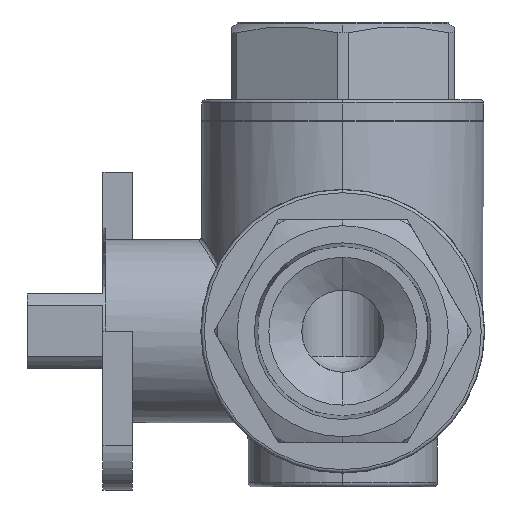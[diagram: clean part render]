
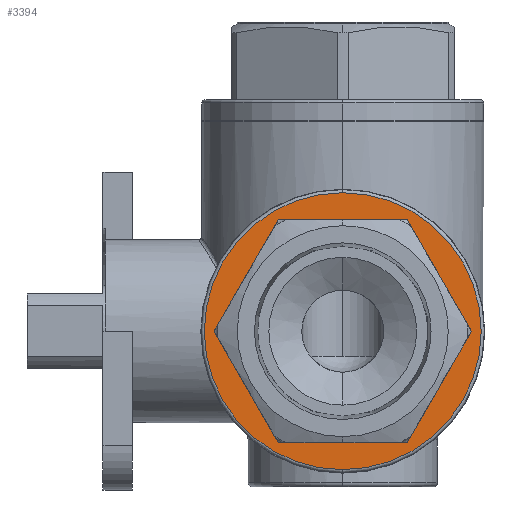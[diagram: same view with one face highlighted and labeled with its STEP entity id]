
A CAD part, left-side view. The second image highlights one B-rep face of the part: STEP entity #3394.
In plain terms, the highlighted planar face has unit normal (-1, 0, 0).
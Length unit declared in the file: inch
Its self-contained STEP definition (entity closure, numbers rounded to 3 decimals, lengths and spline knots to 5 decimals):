
#65 = VERTEX_POINT ( 'NONE', #5696 ) ;
#93 = CARTESIAN_POINT ( 'NONE',  ( -1.065, 0., 0. ) ) ;
#168 = DIRECTION ( 'NONE',  ( 0., 0., -1. ) ) ;
#178 = CIRCLE ( 'NONE', #1516, 0.65835 ) ;
#233 = ORIENTED_EDGE ( 'NONE', *, *, #8161, .T. ) ;
#406 = VERTEX_POINT ( 'NONE', #7968 ) ;
#533 = LINE ( 'NONE', #8275, #726 ) ;
#586 = CARTESIAN_POINT ( 'NONE',  ( -1.065, -0.61199, -0.0004 ) ) ;
#726 = VECTOR ( 'NONE', #4448, 39.37008 ) ;
#732 = DIRECTION ( 'NONE',  ( 0., 0., -1. ) ) ;
#780 = DIRECTION ( 'NONE',  ( 0., -0.501, 0.866 ) ) ;
#1027 = EDGE_LOOP ( 'NONE', ( #6878, #3255, #7149, #233, #3144, #4867 ) ) ;
#1288 = DIRECTION ( 'NONE',  ( 0., 0.501, -0.866 ) ) ;
#1516 = AXIS2_PLACEMENT_3D ( 'NONE', #93, #4597, #732 ) ;
#1578 = LINE ( 'NONE', #3160, #8216 ) ;
#1689 = VERTEX_POINT ( 'NONE', #2406 ) ;
#1752 = PLANE ( 'NONE',  #4235 ) ;
#1843 = FACE_BOUND ( 'NONE', #1027, .T. ) ;
#2018 = EDGE_CURVE ( 'NONE', #406, #3402, #178, .T. ) ;
#2268 = EDGE_CURVE ( 'NONE', #6583, #5251, #4828, .T. ) ;
#2406 = CARTESIAN_POINT ( 'NONE',  ( -1.065, -0.30565, -0.5302 ) ) ;
#2665 = VECTOR ( 'NONE', #780, 39.37008 ) ;
#3101 = DIRECTION ( 'NONE',  ( 0., 0., -1. ) ) ;
#3144 = ORIENTED_EDGE ( 'NONE', *, *, #5237, .T. ) ;
#3148 = DIRECTION ( 'NONE',  ( 0., -0.499, -0.866 ) ) ;
#3160 = CARTESIAN_POINT ( 'NONE',  ( -1.065, 0.30634, -0.5298 ) ) ;
#3255 = ORIENTED_EDGE ( 'NONE', *, *, #5616, .T. ) ;
#3301 = VECTOR ( 'NONE', #3148, 39.37008 ) ;
#3394 = ADVANCED_FACE ( 'NONE', ( #3780, #1843 ), #1752, .F. ) ;
#3402 = VERTEX_POINT ( 'NONE', #8227 ) ;
#3474 = EDGE_LOOP ( 'NONE', ( #7025, #5356 ) ) ;
#3596 = DIRECTION ( 'NONE',  ( 0., -1., -0.001 ) ) ;
#3780 = FACE_OUTER_BOUND ( 'NONE', #3474, .T. ) ;
#4018 = DIRECTION ( 'NONE',  ( -1., 0., 0. ) ) ;
#4091 = VECTOR ( 'NONE', #3596, 39.37008 ) ;
#4235 = AXIS2_PLACEMENT_3D ( 'NONE', #5650, #6941, #3101 ) ;
#4448 = DIRECTION ( 'NONE',  ( 0., 1., 0.001 ) ) ;
#4597 = DIRECTION ( 'NONE',  ( -1., 0., 0. ) ) ;
#4828 = LINE ( 'NONE', #6980, #3301 ) ;
#4867 = ORIENTED_EDGE ( 'NONE', *, *, #5250, .T. ) ;
#5006 = VECTOR ( 'NONE', #1288, 39.37008 ) ;
#5148 = CARTESIAN_POINT ( 'NONE',  ( -1.065, -0.61199, -0.0004 ) ) ;
#5237 = EDGE_CURVE ( 'NONE', #1689, #7422, #533, .T. ) ;
#5250 = EDGE_CURVE ( 'NONE', #7422, #65, #1578, .T. ) ;
#5251 = VERTEX_POINT ( 'NONE', #586 ) ;
#5277 = CARTESIAN_POINT ( 'NONE',  ( -1.065, 0.61199, 0.0004 ) ) ;
#5356 = ORIENTED_EDGE ( 'NONE', *, *, #6643, .T. ) ;
#5421 = CARTESIAN_POINT ( 'NONE',  ( -1.065, 0.30565, 0.5302 ) ) ;
#5486 = CARTESIAN_POINT ( 'NONE',  ( -1.065, 0.30634, -0.5298 ) ) ;
#5616 = EDGE_CURVE ( 'NONE', #7948, #6583, #7515, .T. ) ;
#5650 = CARTESIAN_POINT ( 'NONE',  ( -1.065, 0.67335, 0. ) ) ;
#5696 = CARTESIAN_POINT ( 'NONE',  ( -1.065, 0.61199, 0.0004 ) ) ;
#5894 = CIRCLE ( 'NONE', #8076, 0.65835 ) ;
#6328 = DIRECTION ( 'NONE',  ( 0., 0.499, 0.866 ) ) ;
#6583 = VERTEX_POINT ( 'NONE', #7133 ) ;
#6638 = EDGE_CURVE ( 'NONE', #65, #7948, #7592, .T. ) ;
#6643 = EDGE_CURVE ( 'NONE', #3402, #406, #5894, .T. ) ;
#6795 = CARTESIAN_POINT ( 'NONE',  ( -1.065, 0.30565, 0.5302 ) ) ;
#6878 = ORIENTED_EDGE ( 'NONE', *, *, #6638, .T. ) ;
#6941 = DIRECTION ( 'NONE',  ( 1., 0., 0. ) ) ;
#6980 = CARTESIAN_POINT ( 'NONE',  ( -1.065, -0.30634, 0.5298 ) ) ;
#7025 = ORIENTED_EDGE ( 'NONE', *, *, #2018, .T. ) ;
#7099 = LINE ( 'NONE', #5148, #5006 ) ;
#7133 = CARTESIAN_POINT ( 'NONE',  ( -1.065, -0.30634, 0.5298 ) ) ;
#7149 = ORIENTED_EDGE ( 'NONE', *, *, #2268, .T. ) ;
#7422 = VERTEX_POINT ( 'NONE', #5486 ) ;
#7515 = LINE ( 'NONE', #6795, #4091 ) ;
#7592 = LINE ( 'NONE', #5277, #2665 ) ;
#7864 = CARTESIAN_POINT ( 'NONE',  ( -1.065, 0., 0. ) ) ;
#7948 = VERTEX_POINT ( 'NONE', #5421 ) ;
#7968 = CARTESIAN_POINT ( 'NONE',  ( -1.065, 0., -0.65835 ) ) ;
#8076 = AXIS2_PLACEMENT_3D ( 'NONE', #7864, #4018, #168 ) ;
#8161 = EDGE_CURVE ( 'NONE', #5251, #1689, #7099, .T. ) ;
#8216 = VECTOR ( 'NONE', #6328, 39.37008 ) ;
#8227 = CARTESIAN_POINT ( 'NONE',  ( -1.065, 0., 0.65835 ) ) ;
#8275 = CARTESIAN_POINT ( 'NONE',  ( -1.065, -0.30565, -0.5302 ) ) ;
